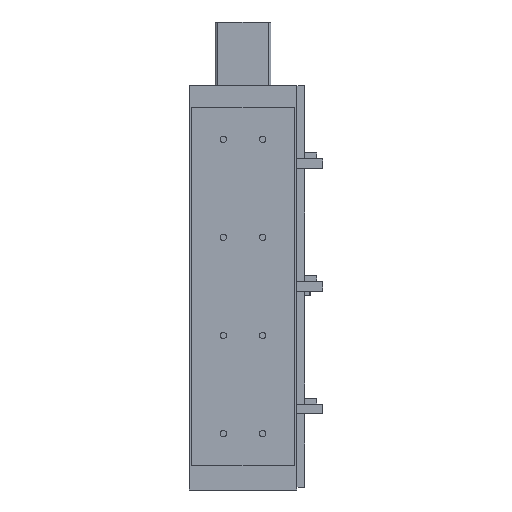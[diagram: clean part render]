
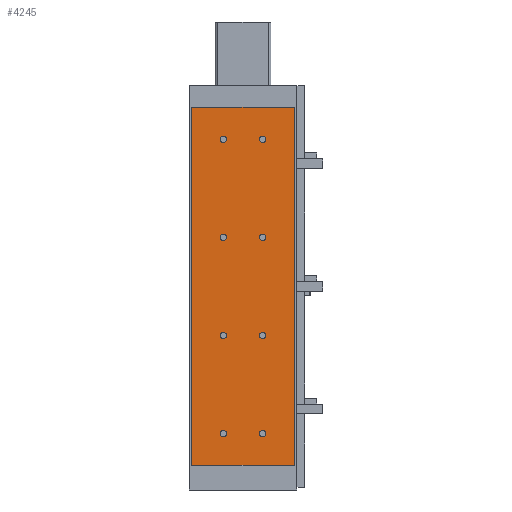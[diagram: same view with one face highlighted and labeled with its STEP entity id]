
A CAD part, front view. The second image highlights one B-rep face of the part: STEP entity #4245.
In plain terms, the highlighted planar face has unit normal (0, -1, 0).
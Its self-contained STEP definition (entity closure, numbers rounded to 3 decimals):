
#153=CARTESIAN_POINT('',(-23.25,0.,357.5));
#154=VERTEX_POINT('',#153);
#155=CARTESIAN_POINT('',(-20.,0.0,357.5));
#156=DIRECTION('',(0.0,1.0,0.0));
#157=DIRECTION('',(1.0,0.0,0.0));
#158=AXIS2_PLACEMENT_3D('',#155,#156,#157);
#159=CIRCLE('',#158,3.25);
#160=EDGE_CURVE('',#154,#154,#159,.T.);
#261=CARTESIAN_POINT('',(16.75,0.,357.5));
#262=VERTEX_POINT('',#261);
#263=CARTESIAN_POINT('',(20.,0.0,357.5));
#264=DIRECTION('',(0.0,1.0,0.0));
#265=DIRECTION('',(1.0,0.0,0.0));
#266=AXIS2_PLACEMENT_3D('',#263,#264,#265);
#267=CIRCLE('',#266,3.25);
#268=EDGE_CURVE('',#262,#262,#267,.T.);
#338=CARTESIAN_POINT('',(16.75,0.,57.5));
#339=VERTEX_POINT('',#338);
#340=CARTESIAN_POINT('',(20.,0.0,57.5));
#341=DIRECTION('',(0.0,1.0,0.0));
#342=DIRECTION('',(1.0,0.0,0.0));
#343=AXIS2_PLACEMENT_3D('',#340,#341,#342);
#344=CIRCLE('',#343,3.25);
#345=EDGE_CURVE('',#339,#339,#344,.T.);
#384=CARTESIAN_POINT('',(-23.25,0.,57.5));
#385=VERTEX_POINT('',#384);
#386=CARTESIAN_POINT('',(-20.,0.0,57.5));
#387=DIRECTION('',(0.0,1.0,0.0));
#388=DIRECTION('',(1.0,0.0,0.0));
#389=AXIS2_PLACEMENT_3D('',#386,#387,#388);
#390=CIRCLE('',#389,3.25);
#391=EDGE_CURVE('',#385,#385,#390,.T.);
#492=CARTESIAN_POINT('',(16.75,0.,257.5));
#493=VERTEX_POINT('',#492);
#494=CARTESIAN_POINT('',(20.,0.0,257.5));
#495=DIRECTION('',(0.0,1.0,0.0));
#496=DIRECTION('',(1.0,0.0,0.0));
#497=AXIS2_PLACEMENT_3D('',#494,#495,#496);
#498=CIRCLE('',#497,3.25);
#499=EDGE_CURVE('',#493,#493,#498,.T.);
#569=CARTESIAN_POINT('',(-23.25,0.,257.5));
#570=VERTEX_POINT('',#569);
#571=CARTESIAN_POINT('',(-20.,0.0,257.5));
#572=DIRECTION('',(0.0,1.0,0.0));
#573=DIRECTION('',(1.0,0.0,0.0));
#574=AXIS2_PLACEMENT_3D('',#571,#572,#573);
#575=CIRCLE('',#574,3.25);
#576=EDGE_CURVE('',#570,#570,#575,.T.);
#646=CARTESIAN_POINT('',(16.75,0.,157.5));
#647=VERTEX_POINT('',#646);
#648=CARTESIAN_POINT('',(20.,0.0,157.5));
#649=DIRECTION('',(0.0,1.0,0.0));
#650=DIRECTION('',(1.0,0.0,0.0));
#651=AXIS2_PLACEMENT_3D('',#648,#649,#650);
#652=CIRCLE('',#651,3.25);
#653=EDGE_CURVE('',#647,#647,#652,.T.);
#723=CARTESIAN_POINT('',(-23.25,0.,157.5));
#724=VERTEX_POINT('',#723);
#725=CARTESIAN_POINT('',(-20.,0.0,157.5));
#726=DIRECTION('',(0.0,1.0,0.0));
#727=DIRECTION('',(1.0,0.0,0.0));
#728=AXIS2_PLACEMENT_3D('',#725,#726,#727);
#729=CIRCLE('',#728,3.25);
#730=EDGE_CURVE('',#724,#724,#729,.T.);
#4142=CARTESIAN_POINT('',(52.,0.,25.));
#4143=VERTEX_POINT('',#4142);
#4150=CARTESIAN_POINT('',(-52.0,0.,25.));
#4151=VERTEX_POINT('',#4150);
#4152=CARTESIAN_POINT('',(-52.0,0.,25.));
#4153=DIRECTION('',(1.0,0.0,0.0));
#4154=VECTOR('',#4153,104.0);
#4155=LINE('',#4152,#4154);
#4156=EDGE_CURVE('',#4151,#4143,#4155,.T.);
#4173=CARTESIAN_POINT('',(-52.,0.,390.0));
#4174=VERTEX_POINT('',#4173);
#4175=CARTESIAN_POINT('',(-52.0,0.,25.));
#4176=DIRECTION('',(0.0,0.0,1.0));
#4177=VECTOR('',#4176,365.0);
#4178=LINE('',#4175,#4177);
#4179=EDGE_CURVE('',#4151,#4174,#4178,.T.);
#4198=CARTESIAN_POINT('',(52.0,0.,0.0));
#4199=DIRECTION('',(0.0,-1.0,0.0));
#4200=DIRECTION('',(0.0,0.0,-1.0));
#4201=AXIS2_PLACEMENT_3D('',#4198,#4199,#4200);
#4202=PLANE('',#4201);
#4203=ORIENTED_EDGE('',*,*,#4156,.T.);
#4204=CARTESIAN_POINT('',(52.,0.,390.0));
#4205=VERTEX_POINT('',#4204);
#4206=CARTESIAN_POINT('',(52.,0.,25.));
#4207=DIRECTION('',(0.0,0.0,1.0));
#4208=VECTOR('',#4207,365.0);
#4209=LINE('',#4206,#4208);
#4210=EDGE_CURVE('',#4143,#4205,#4209,.T.);
#4211=ORIENTED_EDGE('',*,*,#4210,.T.);
#4212=CARTESIAN_POINT('',(52.,0.,390.0));
#4213=DIRECTION('',(-1.0,0.0,0.0));
#4214=VECTOR('',#4213,104.);
#4215=LINE('',#4212,#4214);
#4216=EDGE_CURVE('',#4205,#4174,#4215,.T.);
#4217=ORIENTED_EDGE('',*,*,#4216,.T.);
#4218=ORIENTED_EDGE('',*,*,#4179,.F.);
#4219=EDGE_LOOP('',(#4203,#4211,#4217,#4218));
#4220=FACE_OUTER_BOUND('',#4219,.T.);
#4221=ORIENTED_EDGE('',*,*,#160,.T.);
#4222=EDGE_LOOP('',(#4221));
#4223=FACE_BOUND('',#4222,.T.);
#4224=ORIENTED_EDGE('',*,*,#268,.T.);
#4225=EDGE_LOOP('',(#4224));
#4226=FACE_BOUND('',#4225,.T.);
#4227=ORIENTED_EDGE('',*,*,#345,.T.);
#4228=EDGE_LOOP('',(#4227));
#4229=FACE_BOUND('',#4228,.T.);
#4230=ORIENTED_EDGE('',*,*,#391,.T.);
#4231=EDGE_LOOP('',(#4230));
#4232=FACE_BOUND('',#4231,.T.);
#4233=ORIENTED_EDGE('',*,*,#499,.T.);
#4234=EDGE_LOOP('',(#4233));
#4235=FACE_BOUND('',#4234,.T.);
#4236=ORIENTED_EDGE('',*,*,#576,.T.);
#4237=EDGE_LOOP('',(#4236));
#4238=FACE_BOUND('',#4237,.T.);
#4239=ORIENTED_EDGE('',*,*,#653,.T.);
#4240=EDGE_LOOP('',(#4239));
#4241=FACE_BOUND('',#4240,.T.);
#4242=ORIENTED_EDGE('',*,*,#730,.T.);
#4243=EDGE_LOOP('',(#4242));
#4244=FACE_BOUND('',#4243,.T.);
#4245=ADVANCED_FACE('',(#4220,#4223,#4226,#4229,#4232,#4235,#4238,#4241,#4244),#4202,.T.);
